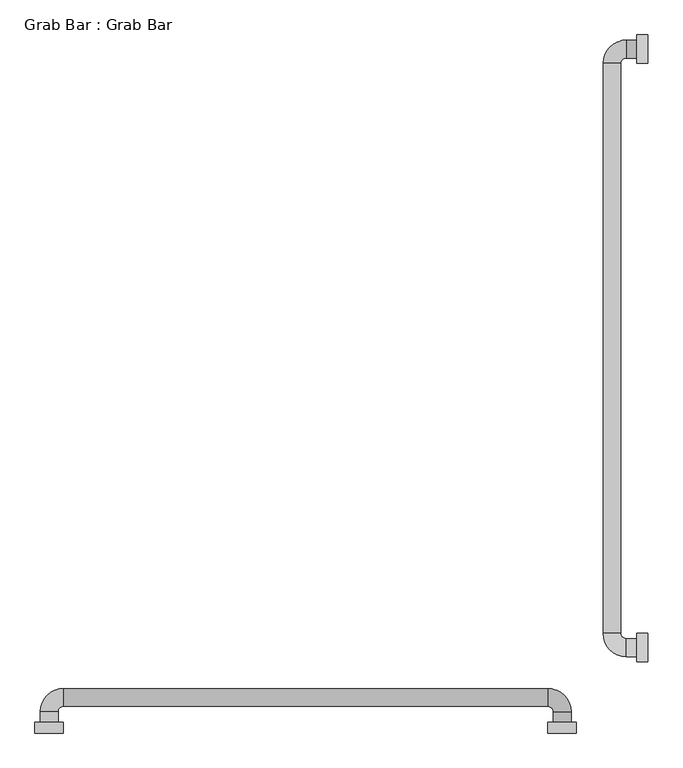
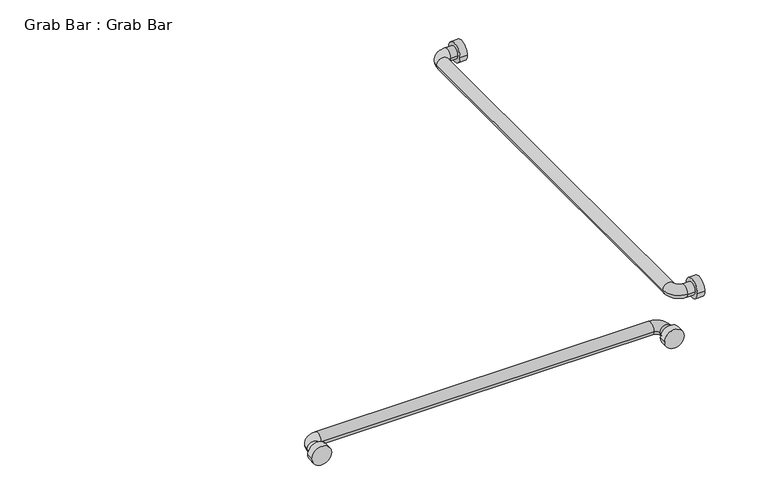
"""IFC4 building model written with IfcOpenShell, lengths in millimetres: proxy geometry, Grab Bar : Grab Bar."""

from ifc_helpers import new_model, si_unit, point, frame, frame_2d, origin, place, context, project, spatial, circle_curve, ellipse_curve, trimmed, segment, composite_curve, outline, extrude, source, transform, mapped, element, save
from ifc_brep_helpers import plane_surface, cylinder_surface, revolved_surface, advanced_brep


def grab_bar_grab_bar_8bd8c0e1(model_context):
    return source(origin(), model_context, "Body", "SolidModel", [
        extrude(outline(composite_curve([segment(trimmed(circle_curve(frame_2d((152.4, 914.4)), 25.4), [point((127.0, 914.4))], [point((177.8, 914.4))], False, "CARTESIAN"), True, "CONTINUOUS"), segment(trimmed(circle_curve(frame_2d((152.4, 914.4)), 25.4), [point((177.8, 914.4))], [point((127.0, 914.4))], False, "CARTESIAN"), True, "CONTINUOUS")], self_intersect=False)), frame((-19.05, 0.0, 0.0), z_axis=(1.0, 0.0, 0.0), x_axis=(0.0, 1.0, 0.0)), (0.0, 0.0, 1.0), 19.05),
        extrude(outline(composite_curve([segment(trimmed(circle_curve(frame_2d((1219.2, 914.4)), 25.4), [point((1193.8, 914.4))], [point((1244.6, 914.4))], False, "CARTESIAN"), True, "CONTINUOUS"), segment(trimmed(circle_curve(frame_2d((1219.2, 914.4)), 25.4), [point((1244.6, 914.4))], [point((1193.8, 914.4))], False, "CARTESIAN"), True, "CONTINUOUS")], self_intersect=False)), frame((-19.05, 0.0, 0.0), z_axis=(1.0, 0.0, 0.0), x_axis=(0.0, 1.0, 0.0)), (0.0, 0.0, 1.0), 19.05),
        extrude(outline(composite_curve([segment(trimmed(circle_curve(frame_2d((914.4, -152.4)), 25.4), [point((914.4, -177.8))], [point((914.4, -127.0))], False, "CARTESIAN"), True, "CONTINUOUS"), segment(trimmed(circle_curve(frame_2d((914.4, -152.4)), 25.4), [point((914.4, -127.0))], [point((914.4, -177.8))], False, "CARTESIAN"), True, "CONTINUOUS")], self_intersect=False)), frame((0.0, 0.0, 0.0), z_axis=(0.0, 1.0, 0.0), x_axis=(0.0, 0.0, 1.0)), (0.0, 0.0, 1.0), 19.05),
        extrude(outline(composite_curve([segment(trimmed(circle_curve(frame_2d((914.4, -1066.8)), 25.4), [point((914.4, -1092.2))], [point((914.4, -1041.4))], False, "CARTESIAN"), True, "CONTINUOUS"), segment(trimmed(circle_curve(frame_2d((914.4, -1066.8)), 25.4), [point((914.4, -1041.4))], [point((914.4, -1092.2))], False, "CARTESIAN"), True, "CONTINUOUS")], self_intersect=False)), frame((0.0, 0.0, 0.0), z_axis=(0.0, 1.0, 0.0), x_axis=(0.0, 0.0, 1.0)), (0.0, 0.0, 1.0), 19.05),
        advanced_brep(
        [(-19.05, 168.275, 914.4), (-19.05, 136.525, 914.4), (-38.1, 168.275, 914.4), (-38.1, 136.525, 914.4), (-79.375, 177.8, 914.4), (-47.625, 177.8, 914.4), (-47.625, 1193.8, 914.4), (-79.375, 1193.8, 914.4), (-38.1, 1235.075, 914.4), (-38.1, 1203.325, 914.4), (-19.05, 1203.325, 914.4), (-19.05, 1235.075, 914.4)],
        [
            (0, 1, circle_curve(frame((-19.05, 152.4, 914.4), z_axis=(1.0, 0.0, 0.0), x_axis=(0.0, -1.0, 0.0)), 15.875)),
            (1, 0, circle_curve(frame((-19.05, 152.4, 914.4), z_axis=(1.0, 0.0, 0.0), x_axis=(0.0, -1.0, 0.0)), 15.875)),
            (0, 2),
            (2, 3, circle_curve(frame((-38.1, 152.4, 914.4), z_axis=(1.0, 0.0, 0.0), x_axis=(0.0, -1.0, 0.0)), 15.875)),
            (3, 1),
            (3, 2, circle_curve(frame((-38.1, 152.4, 914.4), z_axis=(1.0, 0.0, 0.0), x_axis=(0.0, -1.0, 0.0)), 15.875)),
            (4, 3, circle_curve(frame((-38.1, 177.8, 914.4), z_axis=(0.0, 0.0, 1.0), x_axis=(0.0, -1.0, 0.0)), 41.275)),
            (2, 5, circle_curve(frame((-38.1, 177.8, 914.4), z_axis=(0.0, 0.0, -1.0), x_axis=(0.0, -1.0, 0.0)), 9.525)),
            (5, 4, circle_curve(frame((-63.5, 177.8, 914.4), z_axis=(0.0, -1.0, 0.0), x_axis=(-1.0, 0.0, 0.0)), 15.875)),
            (4, 5, circle_curve(frame((-63.5, 177.8, 914.4), z_axis=(0.0, -1.0, 0.0), x_axis=(-1.0, 0.0, 0.0)), 15.875)),
            (5, 6),
            (6, 7, circle_curve(frame((-63.5, 1193.8, 914.4), z_axis=(0.0, -1.0, 0.0), x_axis=(-1.0, 0.0, 0.0)), 15.875)),
            (7, 4),
            (7, 6, circle_curve(frame((-63.5, 1193.8, 914.4), z_axis=(0.0, -1.0, 0.0), x_axis=(-1.0, 0.0, 0.0)), 15.875)),
            (8, 7, circle_curve(frame((-38.1, 1193.8, 914.4), z_axis=(0.0, 0.0, 1.0), x_axis=(-1.0, 0.0, 0.0)), 41.275)),
            (6, 9, circle_curve(frame((-38.1, 1193.8, 914.4), z_axis=(0.0, 0.0, -1.0), x_axis=(-1.0, 0.0, 0.0)), 9.525)),
            (9, 8, circle_curve(frame((-38.1, 1219.2, 914.4), z_axis=(-1.0, 0.0, 0.0), x_axis=(0.0, 1.0, 0.0)), 15.875)),
            (8, 9, circle_curve(frame((-38.1, 1219.2, 914.4), z_axis=(-1.0, 0.0, 0.0), x_axis=(0.0, 1.0, 0.0)), 15.875)),
            (10, 11, circle_curve(frame((-19.05, 1219.2, 914.4), z_axis=(1.0, 0.0, 0.0), x_axis=(0.0, 1.0, 0.0)), 15.875)),
            (11, 10, circle_curve(frame((-19.05, 1219.2, 914.4), z_axis=(1.0, 0.0, 0.0), x_axis=(0.0, 1.0, 0.0)), 15.875)),
            (9, 10),
            (11, 8),
        ],
        [
            plane_surface(frame((-19.05, 152.4, -930.275), z_axis=(1.0, 0.0, 0.0), x_axis=(0.0, -1.0, 0.0))),
            cylinder_surface(frame((-19.05, 152.4, 914.4), z_axis=(1.0, 0.0, 0.0), x_axis=(0.0, -1.0, 0.0)), 15.875),
            revolved_surface(trimmed(ellipse_curve(frame((-38.1, 152.4, 914.4), z_axis=(1.0, 0.0, 0.0), x_axis=(0.0, -1.0, 0.0)), 15.875, 15.875), [point((-38.1, 168.275, 914.4))], [point((-38.1, 136.525, 914.4))], True, "CARTESIAN"), (-38.1, 177.8, 0.0), (0.0, 0.0, -1.0)),
            revolved_surface(trimmed(ellipse_curve(frame((-38.1, 152.4, 914.4), z_axis=(1.0, 0.0, 0.0), x_axis=(0.0, -1.0, 0.0)), 15.875, 15.875), [point((-38.1, 136.525, 914.4))], [point((-38.1, 168.275, 914.4))], True, "CARTESIAN"), (-38.1, 177.8, 0.0), (0.0, 0.0, -1.0)),
            cylinder_surface(frame((-63.5, 177.8, 914.4), z_axis=(0.0, -1.0, 0.0), x_axis=(-1.0, 0.0, 0.0)), 15.875),
            revolved_surface(trimmed(ellipse_curve(frame((-63.5, 1193.8, 914.4), z_axis=(0.0, -1.0, 0.0), x_axis=(-1.0, 0.0, 0.0)), 15.875, 15.875), [point((-47.625, 1193.8, 914.4))], [point((-79.375, 1193.8, 914.4))], True, "CARTESIAN"), (-38.1, 1193.8, 0.0), (0.0, 0.0, -1.0)),
            revolved_surface(trimmed(ellipse_curve(frame((-63.5, 1193.8, 914.4), z_axis=(0.0, -1.0, 0.0), x_axis=(-1.0, 0.0, 0.0)), 15.875, 15.875), [point((-79.375, 1193.8, 914.4))], [point((-47.625, 1193.8, 914.4))], True, "CARTESIAN"), (-38.1, 1193.8, 0.0), (0.0, 0.0, -1.0)),
            plane_surface(frame((-19.05, 1219.2, -930.275), z_axis=(1.0, 0.0, 0.0), x_axis=(0.0, 1.0, 0.0))),
            cylinder_surface(frame((-38.1, 1219.2, 914.4), z_axis=(-1.0, 0.0, 0.0), x_axis=(0.0, 1.0, 0.0)), 15.875),
        ],
        [
            (0, [[1, 2]]),
            (1, [[-1, 3, 4, 5]]),
            (1, [[-2, -5, 6, -3]]),
            (2, [[7, -4, 8, 9]]),
            (3, [[-8, -6, -7, 10]]),
            (4, [[-9, 11, 12, 13]]),
            (4, [[-10, -13, 14, -11]]),
            (5, [[15, -12, 16, 17]]),
            (6, [[-16, -14, -15, 18]]),
            (7, [[19, 20]]),
            (8, [[-17, 21, -20, 22]]),
            (8, [[-18, -22, -19, -21]]),
        ],
    ),
        advanced_brep(
        [(-1050.925, 19.05, 914.4), (-1082.675, 19.05, 914.4), (-1050.925, 38.1, 914.4), (-1082.675, 38.1, 914.4), (-1041.4, 79.375, 914.4), (-1041.4, 47.625, 914.4), (-177.8, 47.625, 914.4), (-177.8, 79.375, 914.4), (-136.525, 38.1, 914.4), (-168.275, 38.1, 914.4), (-168.275, 19.05, 914.4), (-136.525, 19.05, 914.4)],
        [
            (0, 1, circle_curve(frame((-1066.8, 19.05, 914.4), z_axis=(0.0, -1.0, 0.0), x_axis=(-1.0, 0.0, 0.0)), 15.875)),
            (1, 0, circle_curve(frame((-1066.8, 19.05, 914.4), z_axis=(0.0, -1.0, 0.0), x_axis=(-1.0, 0.0, 0.0)), 15.875)),
            (0, 2),
            (2, 3, circle_curve(frame((-1066.8, 38.1, 914.4), z_axis=(0.0, -1.0, 0.0), x_axis=(-1.0, 0.0, 0.0)), 15.875)),
            (3, 1),
            (3, 2, circle_curve(frame((-1066.8, 38.1, 914.4), z_axis=(0.0, -1.0, 0.0), x_axis=(-1.0, 0.0, 0.0)), 15.875)),
            (4, 3, circle_curve(frame((-1041.4, 38.1, 914.4), z_axis=(0.0, 0.0, 1.0), x_axis=(-1.0, 0.0, 0.0)), 41.275)),
            (2, 5, circle_curve(frame((-1041.4, 38.1, 914.4), z_axis=(0.0, 0.0, -1.0), x_axis=(-1.0, 0.0, 0.0)), 9.525)),
            (5, 4, circle_curve(frame((-1041.4, 63.5, 914.4), z_axis=(-1.0, 0.0, 0.0), x_axis=(0.0, 1.0, 0.0)), 15.875)),
            (4, 5, circle_curve(frame((-1041.4, 63.5, 914.4), z_axis=(-1.0, 0.0, 0.0), x_axis=(0.0, 1.0, 0.0)), 15.875)),
            (5, 6),
            (6, 7, circle_curve(frame((-177.8, 63.5, 914.4), z_axis=(-1.0, 0.0, 0.0), x_axis=(0.0, 1.0, 0.0)), 15.875)),
            (7, 4),
            (7, 6, circle_curve(frame((-177.8, 63.5, 914.4), z_axis=(-1.0, 0.0, 0.0), x_axis=(0.0, 1.0, 0.0)), 15.875)),
            (8, 7, circle_curve(frame((-177.8, 38.1, 914.4), z_axis=(0.0, 0.0, 1.0), x_axis=(0.0, 1.0, 0.0)), 41.275)),
            (6, 9, circle_curve(frame((-177.8, 38.1, 914.4), z_axis=(0.0, 0.0, -1.0), x_axis=(0.0, 1.0, 0.0)), 9.525)),
            (9, 8, circle_curve(frame((-152.4, 38.1, 914.4), z_axis=(0.0, 1.0, 0.0), x_axis=(1.0, 0.0, 0.0)), 15.875)),
            (8, 9, circle_curve(frame((-152.4, 38.1, 914.4), z_axis=(0.0, 1.0, 0.0), x_axis=(1.0, 0.0, 0.0)), 15.875)),
            (10, 11, circle_curve(frame((-152.4, 19.05, 914.4), z_axis=(0.0, -1.0, 0.0), x_axis=(1.0, 0.0, 0.0)), 15.875)),
            (11, 10, circle_curve(frame((-152.4, 19.05, 914.4), z_axis=(0.0, -1.0, 0.0), x_axis=(1.0, 0.0, 0.0)), 15.875)),
            (9, 10),
            (11, 8),
        ],
        [
            plane_surface(frame((-1997.075, 19.05, 0.0), z_axis=(0.0, -1.0, 0.0), x_axis=(0.0, 0.0, 1.0))),
            cylinder_surface(frame((-1066.8, 19.05, 914.4), z_axis=(0.0, -1.0, 0.0), x_axis=(-1.0, 0.0, 0.0)), 15.875),
            revolved_surface(trimmed(ellipse_curve(frame((-1066.8, 38.1, 914.4), z_axis=(0.0, -1.0, 0.0), x_axis=(-1.0, 0.0, 0.0)), 15.875, 15.875), [point((-1050.925, 38.1, 914.4))], [point((-1082.675, 38.1, 914.4))], True, "CARTESIAN"), (-1041.4, 38.1, 0.0), (0.0, 0.0, -1.0)),
            revolved_surface(trimmed(ellipse_curve(frame((-1066.8, 38.1, 914.4), z_axis=(0.0, -1.0, 0.0), x_axis=(-1.0, 0.0, 0.0)), 15.875, 15.875), [point((-1082.675, 38.1, 914.4))], [point((-1050.925, 38.1, 914.4))], True, "CARTESIAN"), (-1041.4, 38.1, 0.0), (0.0, 0.0, -1.0)),
            cylinder_surface(frame((-1041.4, 63.5, 914.4), z_axis=(-1.0, 0.0, 0.0), x_axis=(0.0, 1.0, 0.0)), 15.875),
            revolved_surface(trimmed(ellipse_curve(frame((-177.8, 63.5, 914.4), z_axis=(-1.0, 0.0, 0.0), x_axis=(0.0, 1.0, 0.0)), 15.875, 15.875), [point((-177.8, 47.625, 914.4))], [point((-177.8, 79.375, 914.4))], True, "CARTESIAN"), (-177.8, 38.1, 0.0), (0.0, 0.0, -1.0)),
            revolved_surface(trimmed(ellipse_curve(frame((-177.8, 63.5, 914.4), z_axis=(-1.0, 0.0, 0.0), x_axis=(0.0, 1.0, 0.0)), 15.875, 15.875), [point((-177.8, 79.375, 914.4))], [point((-177.8, 47.625, 914.4))], True, "CARTESIAN"), (-177.8, 38.1, 0.0), (0.0, 0.0, -1.0)),
            plane_surface(frame((-1082.675, 19.05, 0.0), z_axis=(0.0, -1.0, 0.0), x_axis=(0.0, 0.0, -1.0))),
            cylinder_surface(frame((-152.4, 38.1, 914.4), z_axis=(0.0, 1.0, 0.0), x_axis=(1.0, 0.0, 0.0)), 15.875),
        ],
        [
            (0, [[1, 2]]),
            (1, [[-1, 3, 4, 5]]),
            (1, [[-2, -5, 6, -3]]),
            (2, [[7, -4, 8, 9]]),
            (3, [[-8, -6, -7, 10]]),
            (4, [[-9, 11, 12, 13]]),
            (4, [[-10, -13, 14, -11]]),
            (5, [[15, -12, 16, 17]]),
            (6, [[-16, -14, -15, 18]]),
            (7, [[19, 20]]),
            (8, [[-17, 21, -20, 22]]),
            (8, [[-18, -22, -19, -21]]),
        ],
    ),
    ])


if __name__ == "__main__":
    model = new_model("IFC4")
    model_context = context("Model", 3, world=origin())
    ifc_project = project(units=[si_unit("LENGTHUNIT", "METRE", prefix="MILLI")], contexts=[model_context])
    site = spatial("IfcSite", under=ifc_project)
    building = spatial("IfcBuilding", under=site)
    placement = place(None, origin())
    grab_bar_grab_bar_shape = grab_bar_grab_bar_8bd8c0e1(model_context)
    element("IfcBuildingElementProxy", 1, Name="Grab Bar : Grab Bar", ObjectType="Grab Bar : Grab Bar", at=placement, inside=building, context=model_context, shape_type="MappedRepresentation", body=[
        mapped(grab_bar_grab_bar_shape, transform((0.0, 0.0, 0.0), x_axis=(1.0, 0.0, 0.0), y_axis=(0.0, 1.0, 0.0), z_axis=(0.0, 0.0, 1.0))),
    ])
    save(model, "model.ifc")
